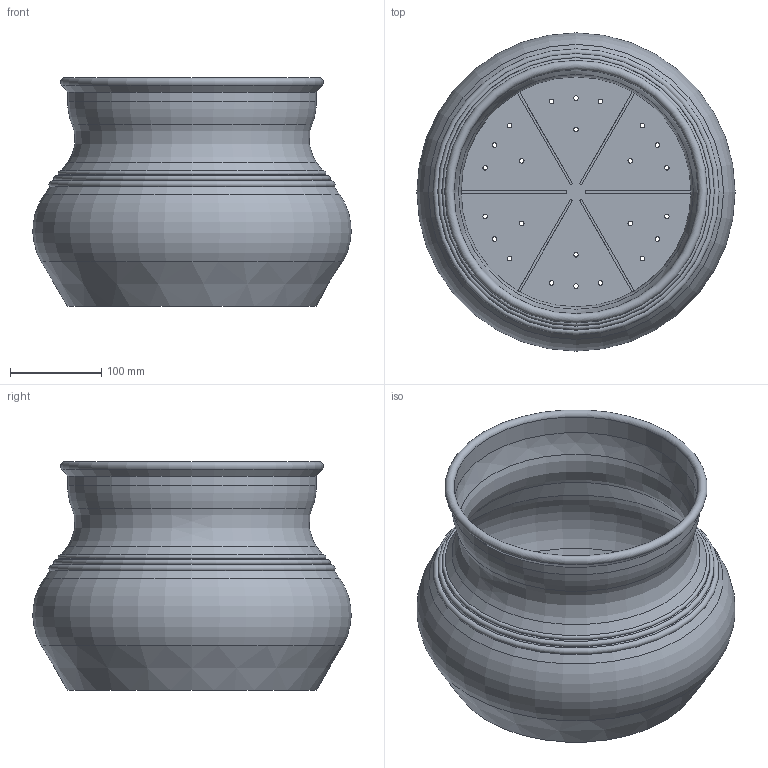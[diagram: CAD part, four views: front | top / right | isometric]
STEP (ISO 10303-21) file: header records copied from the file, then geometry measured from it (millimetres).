
FILE_DESCRIPTION(/* description */ (''),/* implementation_level */ '2;1');
FILE_NAME(/* name */ 'LR2406-S25-H250-D350_step.step',/* time_stamp */ '2024-02-01T10:59:47+01:00',/* author */ (''),/* organization */ (''),/* preprocessor_version */ 'ST-DEVELOPER v20',/* originating_system */ 'Autodesk Translation Framework v12.20.1.177',/* authorisation */ '');
FILE_SCHEMA (('AUTOMOTIVE_DESIGN { 1 0 10303 214 3 1 1 }'));
Length unit declared in the file: millimetre
Products named in the file (1): LR2406-S25-H250-D350
Bounding box: 347.91 x 347.91 x 250 mm (x, y, z)
Volume: 822022.6 mm3; surface area: 643234.7 mm2
Topology: 1 solids, 1 shells, 70 faces, 185 edges, 117 vertices
Faces by surface type: cylinder 32, plane 20, torus 9, cone 8, bspline 1
Full cylindrical faces by diameter (mm): 5 x24, 267 x1, 272 x1
Entity records: 2358 total; most frequent: DIRECTION 428, CARTESIAN_POINT 399, ORIENTED_EDGE 370, EDGE_CURVE 185, AXIS2_PLACEMENT_3D 173, EDGE_LOOP 118, VERTEX_POINT 117, CIRCLE 103
